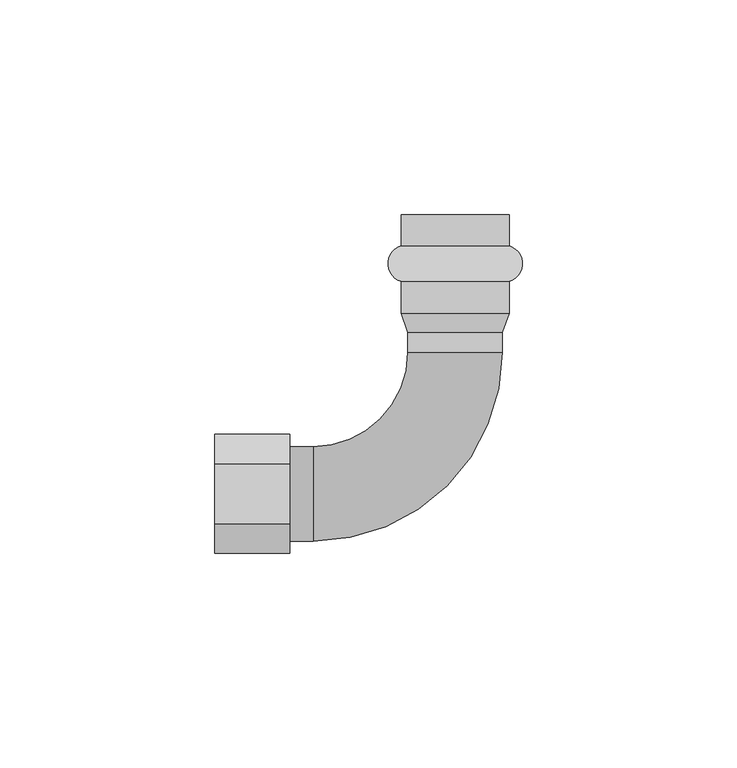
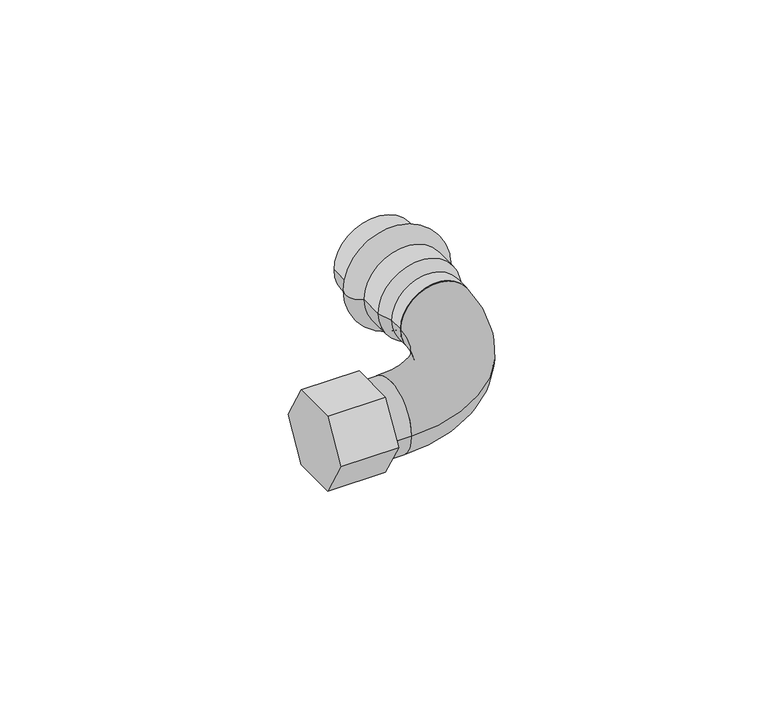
"""IFC4 building model written with IfcOpenShell, lengths in millimetres: valve geometry, Отвод_90°_с_переходом_на_внутреннюю_или_наружнюю_резьбу : VTi.956.I."""

import ifcopenshell
import ifcopenshell.guid

model = None  # the IFC model being written
_history = None  # IfcOwnerHistory: only IFC2X3 demands one
_inside = {}  # id of a spatial element -> (the spatial element, [elements in it])
_under = {}  # id of a project, library or spatial element -> (it, [spatial elements below it])
_declared = {}  # id of a project -> (the project, [libraries it declares])
_typed = {}  # id of a type object -> (the type object, [elements of that type])
_made_of = {}  # id of a material, layer set ... -> (it, [elements and type objects made of it])


def new_model(schema):
    """Start an empty IFC model of exactly this schema.

    Asked for "IFC4X3", IfcOpenShell would pick the latest addendum, in which some entities
    have other attributes; the version numbers below select the first issue.
    IFC2X3 requires an IfcOwnerHistory on every rooted entity: one is made here for all.
    """
    global model, _history
    if schema == "IFC4X3":
        model = ifcopenshell.file(schema_version=(4, 3, 0, 0))
    else:
        model = ifcopenshell.file(schema=schema)
    _inside.clear()
    _under.clear()
    _declared.clear()
    _typed.clear()
    _made_of.clear()
    _history = None
    if model.schema == "IFC2X3":
        org = make("IfcOrganization", Name="unknown")
        user = make(
            "IfcPersonAndOrganization",
            ThePerson=make("IfcPerson", FamilyName="unknown"),
            TheOrganization=org,
        )
        app = make(
            "IfcApplication",
            ApplicationDeveloper=org,
            Version="unknown",
            ApplicationFullName="unknown",
            ApplicationIdentifier="unknown",
        )
        _history = make(
            "IfcOwnerHistory",
            OwningUser=user,
            OwningApplication=app,
            ChangeAction="ADDED",
            CreationDate=0,
        )
    return model


def make(cls, **values):
    """One entity of the class cls with the attributes given. An attribute that is None is left unset."""
    return model.create_entity(
        cls, **{name: value for name, value in values.items() if value is not None}
    )


def rooted(cls, **values):
    """An entity with a GlobalId (a new one), such as an element, a storey or a relation."""
    return make(cls, GlobalId=ifcopenshell.guid.new(), OwnerHistory=_history, **values)


def si_unit(unit_type, name, prefix=None):
    """IfcSIUnit, for example si_unit("LENGTHUNIT", "METRE", prefix="MILLI")."""
    return make("IfcSIUnit", UnitType=unit_type, Prefix=prefix, Name=name)


def assignment(units):
    """IfcUnitAssignment: the units of a project."""
    return None if units is None else make("IfcUnitAssignment", Units=units)


def point(xyz):
    """IfcCartesianPoint."""
    return None if xyz is None else make("IfcCartesianPoint", Coordinates=xyz)


def direction(xyz):
    """IfcDirection."""
    return None if xyz is None else make("IfcDirection", DirectionRatios=xyz)


def frame(location, z_axis=None, x_axis=None):
    """IfcAxis2Placement3D, a coordinate frame: its origin and axes. An axis left out is left unset."""
    return make(
        "IfcAxis2Placement3D",
        Location=point(location),
        Axis=direction(z_axis),
        RefDirection=direction(x_axis),
    )


def origin():
    """The frame at (0, 0, 0) with its axes left unset."""
    return frame((0.0, 0.0, 0.0))


def place(relative_to, where):
    """IfcLocalPlacement: puts the frame where relative to a parent placement (None: the world)."""
    return make(
        "IfcLocalPlacement", PlacementRelTo=relative_to, RelativePlacement=where
    )


def context(
    kind, dimensions, precision=None, world=None, true_north=None, identifier=None
):
    """IfcGeometricRepresentationContext, for example the 3D "Model" context."""
    return make(
        "IfcGeometricRepresentationContext",
        ContextIdentifier=identifier,
        ContextType=kind,
        CoordinateSpaceDimension=dimensions,
        Precision=precision,
        WorldCoordinateSystem=world,
        TrueNorth=true_north,
    )


def project(units=None, contexts=None):
    """IfcProject with its units and contexts."""
    return rooted(
        "IfcProject",
        Name="project",
        RepresentationContexts=contexts,
        UnitsInContext=assignment(units),
    )


def spatial(cls, under=None, at=None, **own):
    """A site, building, storey or space (cls), placed at a placement, below another one or the project."""
    s = rooted(cls, ObjectPlacement=at, **own)
    if under is not None:
        _under.setdefault(under.id(), (under, []))[1].append(s)
    return s


def polyline(points):
    """IfcPolyline through the points."""
    return make("IfcPolyline", Points=[point(p) for p in points])


def circle_curve(where, radius):
    """IfcCircle in the frame where."""
    return make("IfcCircle", Position=where, Radius=radius)


def ellipse_curve(where, semi_axis1, semi_axis2):
    """IfcEllipse in the frame where."""
    return make(
        "IfcEllipse", Position=where, SemiAxis1=semi_axis1, SemiAxis2=semi_axis2
    )


def trimmed(basis, trim1, trim2, sense, master):
    """IfcTrimmedCurve: the piece of a basis curve between two trims."""
    return make(
        "IfcTrimmedCurve",
        BasisCurve=basis,
        Trim1=trim1,
        Trim2=trim2,
        SenseAgreement=sense,
        MasterRepresentation=master,
    )


def outline(outer, holes=None, kind="AREA"):
    """IfcArbitraryClosedProfileDef: a profile drawn as a closed curve; with holes, ...WithVoids."""
    if holes is None:
        return make("IfcArbitraryClosedProfileDef", ProfileType=kind, OuterCurve=outer)
    return make(
        "IfcArbitraryProfileDefWithVoids",
        ProfileType=kind,
        OuterCurve=outer,
        InnerCurves=holes,
    )


def extrude(swept, where, along, depth):
    """IfcExtrudedAreaSolid: the profile swept, set in the frame where, extruded along a direction by depth."""
    return make(
        "IfcExtrudedAreaSolid",
        SweptArea=swept,
        Position=where,
        ExtrudedDirection=direction(along),
        Depth=depth,
    )


def shape(context_of_items, identifier, shape_type, items):
    """IfcShapeRepresentation: the items that make up one representation, for example the "Body"."""
    return make(
        "IfcShapeRepresentation",
        ContextOfItems=context_of_items,
        RepresentationIdentifier=identifier,
        RepresentationType=shape_type,
        Items=items,
    )


def source(mapping_origin, context_of_items, identifier, shape_type, items):
    """IfcRepresentationMap: a shape defined once, which mapped items show again and again."""
    return make(
        "IfcRepresentationMap",
        MappingOrigin=mapping_origin,
        MappedRepresentation=shape(context_of_items, identifier, shape_type, items),
    )


def transform(
    local_origin,
    x_axis=None,
    y_axis=None,
    z_axis=None,
    scale=None,
    scale2=None,
    scale3=None,
    uniform=True,
):
    """IfcCartesianTransformationOperator3D, or its non-uniform kind. x_axis, y_axis, z_axis: its Axis1, 2, 3."""
    if uniform:
        return make(
            "IfcCartesianTransformationOperator3D",
            Axis1=direction(x_axis),
            Axis2=direction(y_axis),
            LocalOrigin=point(local_origin),
            Scale=scale,
            Axis3=direction(z_axis),
        )
    return make(
        "IfcCartesianTransformationOperator3DnonUniform",
        Axis1=direction(x_axis),
        Axis2=direction(y_axis),
        LocalOrigin=point(local_origin),
        Scale=scale,
        Axis3=direction(z_axis),
        Scale2=scale2,
        Scale3=scale3,
    )


def mapped(mapping_source, mapping_target):
    """IfcMappedItem: shows the shape of a source again, moved by a transform."""
    return make(
        "IfcMappedItem", MappingSource=mapping_source, MappingTarget=mapping_target
    )


def made_of(thing, what):
    """Note that an element or type object is made of a material, layer set ...; save() writes the relation."""
    if what is not None:
        _made_of.setdefault(what.id(), (what, []))[1].append(thing)
    return thing


def element(
    cls,
    number,
    at=None,
    inside=None,
    cuts=None,
    type_object=None,
    material=None,
    context=None,
    identifier="Body",
    shape_type=None,
    held_by="IfcProductDefinitionShape",
    body=None,
    shapes=None,
    **own,
):
    """One element of the class cls, such as IfcWall. Its Tag is "e" and its number.

    at: its placement. inside: the storey or other place that contains it. cuts: it is an
    opening in that element (IfcRelVoidsElement). A single representation is given by context,
    identifier, shape_type and body (its items); several are given by shapes. held_by: the class
    of the entity that holds the representations. save() writes the other relations.
    """
    e = rooted(cls, Tag="e%d" % number, ObjectPlacement=at, **own)
    if body is not None:
        shapes = [shape(context, identifier, shape_type, body)]
    if shapes is not None:
        e.Representation = make(held_by, Representations=shapes)
    if inside is not None:
        _inside.setdefault(inside.id(), (inside, []))[1].append(e)
    if cuts is not None:
        rooted(
            "IfcRelVoidsElement", RelatingBuildingElement=cuts, RelatedOpeningElement=e
        )
    if type_object is not None:
        _typed.setdefault(type_object.id(), (type_object, []))[1].append(e)
    return made_of(e, material)


def aggregate(whole, parts):
    """IfcRelAggregates: a whole, such as a stair, and the parts it consists of."""
    return rooted("IfcRelAggregates", RelatingObject=whole, RelatedObjects=parts)


def save(model, path):
    """Write the relations noted so far, then the file.

    IfcRelAggregates (storeys below a building ...), IfcRelContainedInSpatialStructure (elements
    in a storey), IfcRelDefinesByType, IfcRelAssociatesMaterial and IfcRelDeclares: one each for
    every whole, place, type object, material and project.
    """
    for whole, parts in _under.values():
        aggregate(whole, parts)
    for where, things in _inside.values():
        rooted(
            "IfcRelContainedInSpatialStructure",
            RelatedElements=things,
            RelatingStructure=where,
        )
    for kind, things in _typed.values():
        rooted("IfcRelDefinesByType", RelatedObjects=things, RelatingType=kind)
    for what, things in _made_of.values():
        rooted("IfcRelAssociatesMaterial", RelatedObjects=things, RelatingMaterial=what)
    for by, libraries in _declared.values():
        rooted("IfcRelDeclares", RelatingContext=by, RelatedDefinitions=libraries)
    model.write(path)


def plane_surface(at):
    """IfcPlane: the flat surface through the origin of the frame at, square to its z axis."""
    return make("IfcPlane", Position=at)


def cylinder_surface(at, radius):
    """IfcCylindricalSurface: all points at the distance radius from the z axis of the frame at."""
    return make("IfcCylindricalSurface", Position=at, Radius=radius)


def revolved_surface(curve, axis_point, axis_direction):
    """IfcSurfaceOfRevolution: the curve turned about the line through axis_point along axis_direction."""
    return make(
        "IfcSurfaceOfRevolution",
        SweptCurve=make("IfcArbitraryOpenProfileDef", ProfileType="CURVE", Curve=curve),
        AxisPosition=make("IfcAxis1Placement", Location=point(axis_point), Axis=direction(axis_direction)),
    )


def advanced_brep(points, edges, surfaces, faces):
    """IfcAdvancedBrep: a solid bounded by faces that lie on surfaces and meet in shared edges.

    An edge is (start, end): straight between two places in points (the first is 0);
    or (start, end, curve); or (start, end, curve, False) where it runs against its curve.
    A face is (place in surfaces, loops), or (place, loops, False) where it looks against
    its surface's normal. A loop lists edges by number (the first is 1), with a minus sign
    where the edge is run from its end to its start. The first loop is the outer one.
    """
    corners = [point(p) for p in points]
    vertices = [make("IfcVertexPoint", VertexGeometry=c) for c in corners]
    made = []
    for start, end, *more in edges:
        made.append(
            make(
                "IfcEdgeCurve",
                EdgeStart=vertices[start],
                EdgeEnd=vertices[end],
                EdgeGeometry=more[0] if more else make("IfcPolyline", Points=[corners[start], corners[end]]),
                SameSense=more[1] if len(more) > 1 else True,
            )
        )
    hull = []
    for where, loops, *sense in faces:
        bounds = []
        for j, loop in enumerate(loops):
            ring = [make("IfcOrientedEdge", EdgeElement=made[abs(k) - 1], Orientation=k > 0) for k in loop]
            bounds.append(
                make(
                    "IfcFaceOuterBound" if j == 0 else "IfcFaceBound",
                    Bound=make("IfcEdgeLoop", EdgeList=ring),
                    Orientation=True,
                )
            )
        hull.append(make("IfcAdvancedFace", Bounds=bounds, FaceSurface=surfaces[where], SameSense=sense[0] if sense else True))
    return make("IfcAdvancedBrep", Outer=make("IfcClosedShell", CfsFaces=hull))


def valve_07e833c4(model_context):
    return source(origin(), model_context, "Body", "SolidModel", [
        extrude(outline(polyline([(-6.9282032, 12.0), (6.9282032, 12.0), (13.8564065, 0.0), (6.9282032, -12.0), (-6.9282032, -12.0), (-13.8564065, 0.0), (-6.9282032, 12.0)])), frame((-56.0, 0.0, 0.0), z_axis=(1.0, 0.0, 0.0), x_axis=(0.0, 1.0, 0.0)), (0.0, 0.0, 1.0), 17.5),
        advanced_brep(
        [(12.55, 57.73, 0.0), (-12.55, 57.73, 0.0), (-12.55, 65.0, 0.0), (12.55, 65.0, 0.0), (12.55, 49.47, 0.0), (-12.55, 49.47, 0.0), (12.55, 42.0, 0.0), (-12.55, 42.0, 0.0), (11.0, 37.6, 0.0), (-11.0, 37.6, 0.0), (11.0, 33.0, 0.0), (-11.0, 33.0, 0.0), (0.0, 33.0, 0.0), (0.0, 65.0, 0.0)],
        [
            (0, 1, circle_curve(frame((0.0, 57.73, 0.0), z_axis=(0.0, 1.0, 0.0), x_axis=(-1.0, 0.0, 0.0)), 12.55)),
            (1, 2),
            (2, 3, circle_curve(frame((0.0, 65.0, 0.0), z_axis=(0.0, -1.0, 0.0), x_axis=(-1.0, 0.0, 0.0)), 12.55)),
            (3, 0),
            (1, 0, circle_curve(frame((0.0, 57.73, 0.0), z_axis=(0.0, 1.0, 0.0), x_axis=(-1.0, 0.0, 0.0)), 12.55)),
            (3, 2, circle_curve(frame((0.0, 65.0, 0.0), z_axis=(0.0, -1.0, 0.0), x_axis=(-1.0, 0.0, 0.0)), 12.55)),
            (4, 5, circle_curve(frame((0.0, 49.47, 0.0), z_axis=(0.0, 1.0, 0.0), x_axis=(-1.0, 0.0, 0.0)), 12.55)),
            (5, 1, circle_curve(frame((-11.3504491, 53.6, 0.0), z_axis=(0.0, 0.0, -1.0), x_axis=(0.0, 1.0, 0.0)), 4.300677)),
            (0, 4, circle_curve(frame((11.3504491, 53.6, 0.0), z_axis=(0.0, 0.0, -1.0), x_axis=(0.0, 1.0, 0.0)), 4.300677)),
            (5, 4, circle_curve(frame((0.0, 49.47, 0.0), z_axis=(0.0, 1.0, 0.0), x_axis=(-1.0, 0.0, 0.0)), 12.55)),
            (6, 7, circle_curve(frame((0.0, 42.0, 0.0), z_axis=(0.0, 1.0, 0.0), x_axis=(-1.0, 0.0, 0.0)), 12.55)),
            (7, 5),
            (4, 6),
            (7, 6, circle_curve(frame((0.0, 42.0, 0.0), z_axis=(0.0, 1.0, 0.0), x_axis=(-1.0, 0.0, 0.0)), 12.55)),
            (8, 9, circle_curve(frame((0.0, 37.6, 0.0), z_axis=(0.0, 1.0, 0.0), x_axis=(-1.0, 0.0, 0.0)), 11.0)),
            (9, 7),
            (6, 8),
            (9, 8, circle_curve(frame((0.0, 37.6, 0.0), z_axis=(0.0, 1.0, 0.0), x_axis=(-1.0, 0.0, 0.0)), 11.0)),
            (10, 11, circle_curve(frame((0.0, 33.0, 0.0), z_axis=(0.0, 1.0, 0.0), x_axis=(-1.0, 0.0, 0.0)), 11.0)),
            (11, 9),
            (8, 10),
            (11, 10, circle_curve(frame((0.0, 33.0, 0.0), z_axis=(0.0, 1.0, 0.0), x_axis=(-1.0, 0.0, 0.0)), 11.0)),
            (12, 11),
            (10, 12),
            (2, 13),
            (13, 3),
        ],
        [
            cylinder_surface(frame((0.0, 2065.0, 0.0), z_axis=(0.0, -1.0, 0.0), x_axis=(-1.0, 0.0, 0.0)), 12.55),
            revolved_surface(trimmed(ellipse_curve(frame((-11.3504491, 53.6, 0.0), z_axis=(0.0, 0.0, 1.0), x_axis=(0.0, 1.0, 0.0)), 4.300677, 4.300677), [point((-12.55, 57.73, 0.0))], [point((-12.55, 49.47, 0.0))], True, "CARTESIAN"), (0.0, 2065.0, 0.0), (0.0, -1.0, 0.0)),
            revolved_surface(polyline([(-12.55, 42.0, 0.0), (-11.0, 37.6, 0.0)]), (0.0, 2065.0, 0.0), (0.0, -1.0, 0.0)),
            cylinder_surface(frame((0.0, 2065.0, 0.0), z_axis=(0.0, -1.0, 0.0), x_axis=(-1.0, 0.0, 0.0)), 11.0),
            plane_surface(frame((0.0, 33.0, 0.0), z_axis=(0.0, -1.0, 0.0), x_axis=(-1.0, 0.0, 0.0))),
            plane_surface(frame((0.0, 65.0, 0.0), z_axis=(0.0, 1.0, 0.0), x_axis=(-1.0, 0.0, 0.0))),
        ],
        [
            (0, [[1, 2, 3, 4]]),
            (0, [[5, -4, 6, -2]]),
            (1, [[7, 8, -1, 9]]),
            (1, [[10, -9, -5, -8]]),
            (0, [[11, 12, -7, 13]]),
            (0, [[14, -13, -10, -12]]),
            (2, [[15, 16, -11, 17]]),
            (2, [[18, -17, -14, -16]]),
            (3, [[19, 20, -15, 21]]),
            (3, [[22, -21, -18, -20]]),
            (4, [[23, -19, 24]]),
            (4, [[-24, -22, -23]]),
            (5, [[-3, 25, 26]]),
            (5, [[-6, -26, -25]]),
        ],
    ),
        advanced_brep(
        [(-33.0, -11.0, 0.0), (-33.0, 11.0, 0.0), (-33.0, 0.0, 0.0), (-38.5, -11.0, 0.0), (-38.5, 11.0, 0.0), (-38.5, 0.0, 0.0)],
        [
            (0, 1, circle_curve(frame((-33.0, 0.0, 0.0), z_axis=(1.0, 0.0, 0.0), x_axis=(0.0, 1.0, 0.0)), 11.0)),
            (1, 2),
            (2, 0),
            (1, 0, circle_curve(frame((-33.0, 0.0, 0.0), z_axis=(1.0, 0.0, 0.0), x_axis=(0.0, 1.0, 0.0)), 11.0)),
            (3, 4, circle_curve(frame((-38.5, 0.0, 0.0), z_axis=(1.0, 0.0, 0.0), x_axis=(0.0, 1.0, 0.0)), 11.0)),
            (4, 1),
            (0, 3),
            (4, 3, circle_curve(frame((-38.5, 0.0, 0.0), z_axis=(1.0, 0.0, 0.0), x_axis=(0.0, 1.0, 0.0)), 11.0)),
            (5, 4),
            (3, 5),
        ],
        [
            plane_surface(frame((-33.0, 0.0, 0.0), z_axis=(1.0, 0.0, 0.0), x_axis=(0.0, 1.0, 0.0))),
            cylinder_surface(frame((2000.0, 0.0, 0.0), z_axis=(-1.0, 0.0, 0.0), x_axis=(0.0, 1.0, 0.0)), 11.0),
            plane_surface(frame((-38.5, 0.0, 0.0), z_axis=(-1.0, 0.0, 0.0), x_axis=(0.0, 1.0, 0.0))),
        ],
        [
            (0, [[1, 2, 3]]),
            (0, [[4, -3, -2]]),
            (1, [[5, 6, -1, 7]]),
            (1, [[8, -7, -4, -6]]),
            (2, [[9, -5, 10]]),
            (2, [[-10, -8, -9]]),
        ],
    ),
        advanced_brep(
        [(-11.0, 33.0, 0.0), (11.0, 33.0, 0.0), (-33.0, 11.0, 0.0), (-33.0, -11.0, 0.0)],
        [
            (0, 1, circle_curve(frame((0.0, 33.0, 0.0), z_axis=(0.0, 1.0, 0.0), x_axis=(1.0, 0.0, 0.0)), 11.0)),
            (1, 0, circle_curve(frame((0.0, 33.0, 0.0), z_axis=(0.0, 1.0, 0.0), x_axis=(1.0, 0.0, 0.0)), 11.0)),
            (2, 3, circle_curve(frame((-33.0, 0.0, 0.0), z_axis=(-1.0, 0.0, 0.0), x_axis=(0.0, -1.0, 0.0)), 11.0)),
            (3, 2, circle_curve(frame((-33.0, 0.0, 0.0), z_axis=(-1.0, 0.0, 0.0), x_axis=(0.0, -1.0, 0.0)), 11.0)),
            (3, 1, circle_curve(frame((-33.0, 33.0, 0.0), z_axis=(0.0, 0.0, 1.0), x_axis=(1.0, 0.0, 0.0)), 44.0)),
            (0, 2, circle_curve(frame((-33.0, 33.0, 0.0), z_axis=(0.0, 0.0, -1.0), x_axis=(1.0, 0.0, 0.0)), 22.0)),
        ],
        [
            plane_surface(frame((0.0, 33.0, 0.0), z_axis=(0.0, 1.0, 0.0), x_axis=(0.0, 0.0, 1.0))),
            plane_surface(frame((-33.0, 0.0, 0.0), z_axis=(-1.0, 0.0, 0.0), x_axis=(0.0, 0.0, 1.0))),
            revolved_surface(trimmed(ellipse_curve(frame((0.0, 33.0, 0.0), z_axis=(0.0, 1.0, 0.0), x_axis=(1.0, 0.0, 0.0)), 11.0, 11.0), [point((-11.0, 33.0, 0.0))], [point((11.0, 33.0, 0.0))], True, "CARTESIAN"), (-33.0, 33.0, 0.0), (0.0, 0.0, -1.0)),
            revolved_surface(trimmed(ellipse_curve(frame((0.0, 33.0, 0.0), z_axis=(0.0, 1.0, 0.0), x_axis=(1.0, 0.0, 0.0)), 11.0, 11.0), [point((11.0, 33.0, 0.0))], [point((-11.0, 33.0, 0.0))], True, "CARTESIAN"), (-33.0, 33.0, 0.0), (0.0, 0.0, -1.0)),
        ],
        [
            (0, [[1, 2]]),
            (1, [[3, 4]]),
            (2, [[5, -1, 6, -4]]),
            (3, [[-6, -2, -5, -3]]),
        ],
    ),
    ])


if __name__ == "__main__":
    model = new_model("IFC4")
    model_context = context("Model", 3, world=origin())
    ifc_project = project(units=[si_unit("LENGTHUNIT", "METRE", prefix="MILLI")], contexts=[model_context])
    site = spatial("IfcSite", under=ifc_project)
    building = spatial("IfcBuilding", under=site)
    placement = place(None, origin())
    valve_shape = valve_07e833c4(model_context)
    element("IfcValve", 1, ObjectType="Отвод_90°_с_переходом_на_внутреннюю_или_наружнюю_резьбу : VTi.956.I", at=placement, inside=building, context=model_context, shape_type="MappedRepresentation", body=[
        mapped(valve_shape, transform((0.0, 0.0, 0.0), x_axis=(1.0, 0.0, 0.0), y_axis=(0.0, 1.0, 0.0), z_axis=(0.0, 0.0, 1.0))),
    ])
    save(model, "model.ifc")
